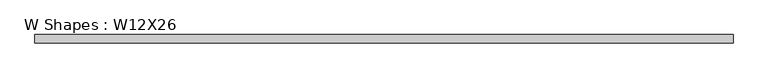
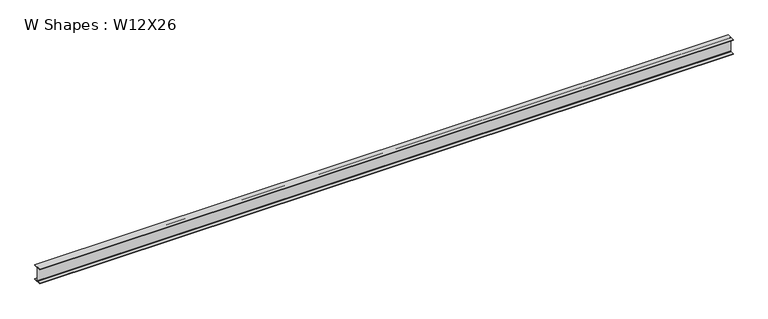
"""IFC4 building model written with IfcOpenShell, lengths in millimetres: beam geometry, W Shapes : W12X26."""

from ifc_helpers import new_model, si_unit, point, frame, frame_2d, origin, place, context, project, spatial, polyline, circle_curve, trimmed, segment, composite_curve, outline, extrude, source, transform, mapped, element, save


def w_shapes_w12x26_22116e2b(model_context):
    return source(origin(), model_context, "Body", "SweptSolid", [
        extrude(outline(composite_curve([segment(polyline([(82.423, -145.288), (82.423, -154.94), (-82.423, -154.94), (-82.423, -145.288), (-10.541, -145.288)]), True, "CONTINUOUS"), segment(trimmed(circle_curve(frame_2d((-10.541, -137.668)), 7.62), [point((-10.541, -145.288))], [point((-2.921, -137.668))], True, "CARTESIAN"), True, "CONTINUOUS"), segment(polyline([(-2.921, -137.668), (-2.921, 137.668)]), True, "CONTINUOUS"), segment(trimmed(circle_curve(frame_2d((-10.541, 137.668)), 7.62), [point((-2.921, 137.668))], [point((-10.541, 145.288))], True, "CARTESIAN"), True, "CONTINUOUS"), segment(polyline([(-10.541, 145.288), (-82.423, 145.288), (-82.423, 154.94), (82.423, 154.94), (82.423, 145.288), (10.541, 145.288)]), True, "CONTINUOUS"), segment(trimmed(circle_curve(frame_2d((10.541, 137.668)), 7.62), [point((10.541, 145.288))], [point((2.921, 137.668))], True, "CARTESIAN"), True, "CONTINUOUS"), segment(polyline([(2.921, 137.668), (2.921, -137.668)]), True, "CONTINUOUS"), segment(trimmed(circle_curve(frame_2d((10.541, -137.668)), 7.62), [point((2.921, -137.668))], [point((10.541, -145.288))], True, "CARTESIAN"), True, "CONTINUOUS"), segment(polyline([(10.541, -145.288), (82.423, -145.288)]), True, "CONTINUOUS")], self_intersect=False)), frame((-7013.6359239, 0.0, 0.0), z_axis=(1.0, 0.0, 0.0), x_axis=(0.0, 1.0, 0.0)), (0.0, 0.0, 1.0), 14043.4755503),
    ])


if __name__ == "__main__":
    model = new_model("IFC4")
    model_context = context("Model", 3, world=origin())
    ifc_project = project(units=[si_unit("LENGTHUNIT", "METRE", prefix="MILLI")], contexts=[model_context])
    site = spatial("IfcSite", under=ifc_project)
    building = spatial("IfcBuilding", under=site)
    placement = place(None, origin())
    w_shapes_w12x26_shape = w_shapes_w12x26_22116e2b(model_context)
    element("IfcBeam", 1, ObjectType="W Shapes : W12X26", at=placement, inside=building, context=model_context, shape_type="MappedRepresentation", body=[
        mapped(w_shapes_w12x26_shape, transform((0.0, 0.0, 0.0), x_axis=(1.0, 0.0, 0.0), y_axis=(0.0, 1.0, 0.0), z_axis=(0.0, 0.0, 1.0))),
    ])
    save(model, "model.ifc")
